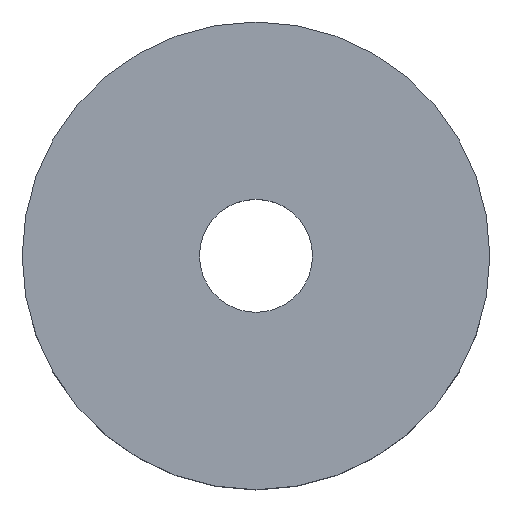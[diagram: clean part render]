
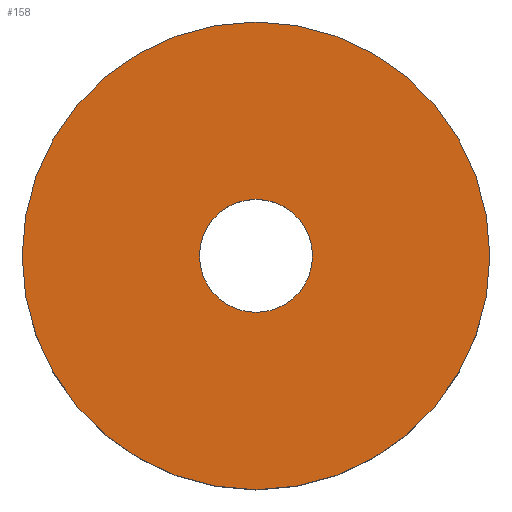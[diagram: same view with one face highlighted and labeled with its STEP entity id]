
A CAD part, top view. The second image highlights one B-rep face of the part: STEP entity #158.
In plain terms, the highlighted planar face has unit normal (0, 0, 1).
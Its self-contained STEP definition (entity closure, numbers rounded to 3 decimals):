
#42 = VERTEX_POINT('',#43);
#43 = CARTESIAN_POINT('',(6.,0.,-0.035));
#50 = CYLINDRICAL_SURFACE('',#51,6.);
#51 = AXIS2_PLACEMENT_3D('',#52,#53,#54);
#52 = CARTESIAN_POINT('',(0.,0.,-4.035));
#53 = DIRECTION('',(-0.,-0.,-1.));
#54 = DIRECTION('',(1.,0.,0.));
#69 = EDGE_CURVE('',#42,#42,#70,.T.);
#70 = SURFACE_CURVE('',#71,(#76,#83),.PCURVE_S1.);
#71 = CIRCLE('',#72,6.);
#72 = AXIS2_PLACEMENT_3D('',#73,#74,#75);
#73 = CARTESIAN_POINT('',(0.,0.,-0.035));
#74 = DIRECTION('',(0.,0.,1.));
#75 = DIRECTION('',(1.,0.,0.));
#76 = PCURVE('',#50,#77);
#77 = DEFINITIONAL_REPRESENTATION('',(#78),#82);
#78 = LINE('',#79,#80);
#79 = CARTESIAN_POINT('',(-0.,-4.));
#80 = VECTOR('',#81,1.);
#81 = DIRECTION('',(-1.,0.));
#82 = ( GEOMETRIC_REPRESENTATION_CONTEXT(2) 
PARAMETRIC_REPRESENTATION_CONTEXT() REPRESENTATION_CONTEXT('2D SPACE',''
  ) );
#83 = PCURVE('',#84,#89);
#84 = PLANE('',#85);
#85 = AXIS2_PLACEMENT_3D('',#86,#87,#88);
#86 = CARTESIAN_POINT('',(0.,0.,
    -0.035));
#87 = DIRECTION('',(0.,0.,1.));
#88 = DIRECTION('',(1.,0.,0.));
#89 = DEFINITIONAL_REPRESENTATION('',(#90),#94);
#90 = CIRCLE('',#91,6.);
#91 = AXIS2_PLACEMENT_2D('',#92,#93);
#92 = CARTESIAN_POINT('',(0.,0.));
#93 = DIRECTION('',(1.,0.));
#94 = ( GEOMETRIC_REPRESENTATION_CONTEXT(2) 
PARAMETRIC_REPRESENTATION_CONTEXT() REPRESENTATION_CONTEXT('2D SPACE',''
  ) );
#158 = ADVANCED_FACE('',(#159,#162),#84,.T.);
#159 = FACE_BOUND('',#160,.T.);
#160 = EDGE_LOOP('',(#161));
#161 = ORIENTED_EDGE('',*,*,#69,.T.);
#162 = FACE_BOUND('',#163,.T.);
#163 = EDGE_LOOP('',(#164));
#164 = ORIENTED_EDGE('',*,*,#165,.F.);
#165 = EDGE_CURVE('',#166,#166,#168,.T.);
#166 = VERTEX_POINT('',#167);
#167 = CARTESIAN_POINT('',(1.45,0.,-0.035));
#168 = SURFACE_CURVE('',#169,(#174,#181),.PCURVE_S1.);
#169 = CIRCLE('',#170,1.45);
#170 = AXIS2_PLACEMENT_3D('',#171,#172,#173);
#171 = CARTESIAN_POINT('',(0.,0.,-0.035));
#172 = DIRECTION('',(0.,0.,1.));
#173 = DIRECTION('',(1.,0.,-0.));
#174 = PCURVE('',#84,#175);
#175 = DEFINITIONAL_REPRESENTATION('',(#176),#180);
#176 = CIRCLE('',#177,1.45);
#177 = AXIS2_PLACEMENT_2D('',#178,#179);
#178 = CARTESIAN_POINT('',(0.,0.));
#179 = DIRECTION('',(1.,0.));
#180 = ( GEOMETRIC_REPRESENTATION_CONTEXT(2) 
PARAMETRIC_REPRESENTATION_CONTEXT() REPRESENTATION_CONTEXT('2D SPACE',''
  ) );
#181 = PCURVE('',#182,#187);
#182 = CYLINDRICAL_SURFACE('',#183,1.45);
#183 = AXIS2_PLACEMENT_3D('',#184,#185,#186);
#184 = CARTESIAN_POINT('',(0.,0.,-5.035));
#185 = DIRECTION('',(0.,0.,1.));
#186 = DIRECTION('',(1.,0.,0.));
#187 = DEFINITIONAL_REPRESENTATION('',(#188),#192);
#188 = LINE('',#189,#190);
#189 = CARTESIAN_POINT('',(0.,5.));
#190 = VECTOR('',#191,1.);
#191 = DIRECTION('',(1.,0.));
#192 = ( GEOMETRIC_REPRESENTATION_CONTEXT(2) 
PARAMETRIC_REPRESENTATION_CONTEXT() REPRESENTATION_CONTEXT('2D SPACE',''
  ) );
